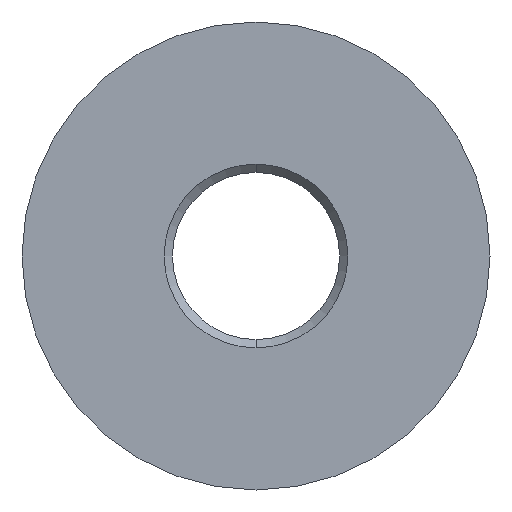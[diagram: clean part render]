
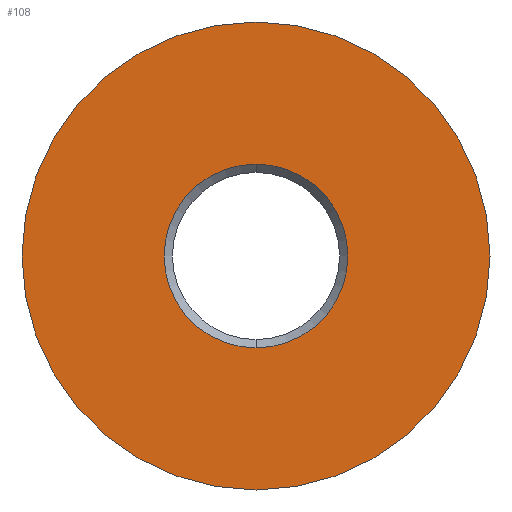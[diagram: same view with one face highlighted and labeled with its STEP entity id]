
A CAD part, front view. The second image highlights one B-rep face of the part: STEP entity #108.
In plain terms, the highlighted planar face has unit normal (0, -1, 0).
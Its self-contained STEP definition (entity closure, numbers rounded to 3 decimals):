
#4 = AXIS2_PLACEMENT_3D ( 'NONE', #361, #197, #387 ) ;
#16 = CIRCLE ( 'NONE', #4, 7. ) ;
#20 = CARTESIAN_POINT ( 'NONE',  ( 0., -5., 7. ) ) ;
#30 = FACE_BOUND ( 'NONE', #284, .T. ) ;
#53 = CIRCLE ( 'NONE', #175, 2.75 ) ;
#54 = CIRCLE ( 'NONE', #329, 2.75 ) ;
#55 = CARTESIAN_POINT ( 'NONE',  ( 0., -5., -7. ) ) ;
#57 = VERTEX_POINT ( 'NONE', #133 ) ;
#67 = EDGE_LOOP ( 'NONE', ( #184, #277 ) ) ;
#74 = CARTESIAN_POINT ( 'NONE',  ( 0., -5., 0. ) ) ;
#81 = DIRECTION ( 'NONE',  ( 0., -1., 0. ) ) ;
#107 = DIRECTION ( 'NONE',  ( 0., 0., -1. ) ) ;
#108 = ADVANCED_FACE ( 'NONE', ( #30, #137 ), #180, .F. ) ;
#133 = CARTESIAN_POINT ( 'NONE',  ( 0., -5., -2.75 ) ) ;
#137 = FACE_OUTER_BOUND ( 'NONE', #67, .T. ) ;
#167 = ORIENTED_EDGE ( 'NONE', *, *, #273, .F. ) ;
#175 = AXIS2_PLACEMENT_3D ( 'NONE', #359, #195, #384 ) ;
#178 = EDGE_CURVE ( 'NONE', #379, #303, #208, .T. ) ;
#180 = PLANE ( 'NONE',  #205 ) ;
#184 = ORIENTED_EDGE ( 'NONE', *, *, #178, .T. ) ;
#191 = AXIS2_PLACEMENT_3D ( 'NONE', #74, #309, #107 ) ;
#195 = DIRECTION ( 'NONE',  ( 0., -1., 0. ) ) ;
#197 = DIRECTION ( 'NONE',  ( 0., -1., 0. ) ) ;
#205 = AXIS2_PLACEMENT_3D ( 'NONE', #246, #376, #214 ) ;
#208 = CIRCLE ( 'NONE', #191, 7. ) ;
#214 = DIRECTION ( 'NONE',  ( 0., 0., 1. ) ) ;
#225 = ORIENTED_EDGE ( 'NONE', *, *, #264, .F. ) ;
#226 = CARTESIAN_POINT ( 'NONE',  ( 0., -5., 2.75 ) ) ;
#246 = CARTESIAN_POINT ( 'NONE',  ( -2.75, -5., 0. ) ) ;
#264 = EDGE_CURVE ( 'NONE', #268, #57, #54, .T. ) ;
#268 = VERTEX_POINT ( 'NONE', #226 ) ;
#273 = EDGE_CURVE ( 'NONE', #57, #268, #53, .T. ) ;
#277 = ORIENTED_EDGE ( 'NONE', *, *, #333, .T. ) ;
#284 = EDGE_LOOP ( 'NONE', ( #167, #225 ) ) ;
#288 = CARTESIAN_POINT ( 'NONE',  ( 0., -5., 0. ) ) ;
#303 = VERTEX_POINT ( 'NONE', #20 ) ;
#309 = DIRECTION ( 'NONE',  ( 0., -1., 0. ) ) ;
#315 = DIRECTION ( 'NONE',  ( 0., 0., -1. ) ) ;
#329 = AXIS2_PLACEMENT_3D ( 'NONE', #288, #81, #315 ) ;
#333 = EDGE_CURVE ( 'NONE', #303, #379, #16, .T. ) ;
#359 = CARTESIAN_POINT ( 'NONE',  ( 0., -5., 0. ) ) ;
#361 = CARTESIAN_POINT ( 'NONE',  ( 0., -5., 0. ) ) ;
#376 = DIRECTION ( 'NONE',  ( 0., 1., 0. ) ) ;
#379 = VERTEX_POINT ( 'NONE', #55 ) ;
#384 = DIRECTION ( 'NONE',  ( 0., 0., -1. ) ) ;
#387 = DIRECTION ( 'NONE',  ( 0., 0., -1. ) ) ;
